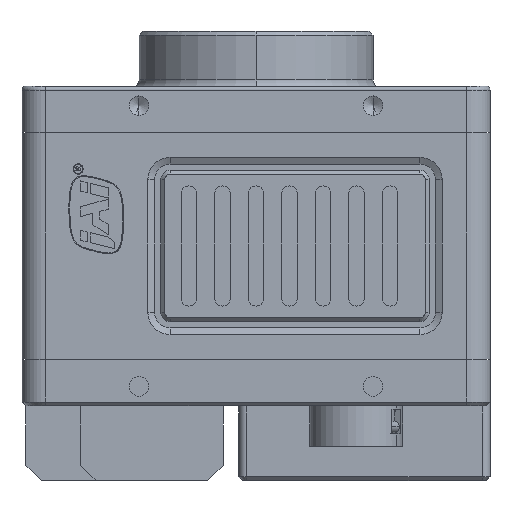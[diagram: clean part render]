
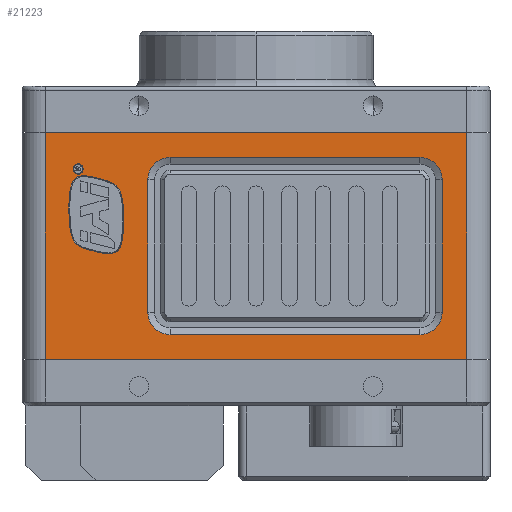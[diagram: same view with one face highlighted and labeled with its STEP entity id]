
A CAD part, left-side view. The second image highlights one B-rep face of the part: STEP entity #21223.
In plain terms, the highlighted planar face has unit normal (-1, 0, 0).
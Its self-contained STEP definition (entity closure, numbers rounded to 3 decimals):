
#1415=DIRECTION('',(0.,-1.,0.));
#1416=VECTOR('',#1415,54.);
#1417=CARTESIAN_POINT('',(-71.158,32.488,-10.22));
#1418=LINE('',#1417,#1416);
#1686=DIRECTION('',(0.,0.,1.));
#1687=VECTOR('',#1686,29.);
#1688=CARTESIAN_POINT('',(-71.158,-21.512,-10.22));
#1689=LINE('',#1688,#1687);
#1690=DIRECTION('',(0.,-1.,0.));
#1691=VECTOR('',#1690,54.);
#1692=CARTESIAN_POINT('',(-71.158,32.488,18.78));
#1693=LINE('',#1692,#1691);
#1694=CARTESIAN_POINT('',(-71.158,-15.512,12.78));
#1695=DIRECTION('',(-1.,0.,0.));
#1696=DIRECTION('',(0.,-1.,0.));
#1697=AXIS2_PLACEMENT_3D('',#1694,#1695,#1696);
#1699=CARTESIAN_POINT('',(-71.158,16.488,12.78));
#1700=DIRECTION('',(-1.,0.,0.));
#1701=DIRECTION('',(0.,0.,1.));
#1702=AXIS2_PLACEMENT_3D('',#1699,#1700,#1701);
#1704=CARTESIAN_POINT('',(-71.158,16.488,-4.22));
#1705=DIRECTION('',(-1.,0.,0.));
#1706=DIRECTION('',(0.,1.,0.));
#1707=AXIS2_PLACEMENT_3D('',#1704,#1705,#1706);
#1709=CARTESIAN_POINT('',(-71.158,-15.512,-4.22));
#1710=DIRECTION('',(-1.,0.,0.));
#1711=DIRECTION('',(0.,0.,-1.));
#1712=AXIS2_PLACEMENT_3D('',#1709,#1710,#1711);
#1714=CARTESIAN_POINT('',(-71.158,28.292,14.152));
#1715=DIRECTION('',(-1.,0.,0.));
#1716=DIRECTION('',(0.,1.,0.));
#1717=AXIS2_PLACEMENT_3D('',#1714,#1715,#1716);
#1719=CARTESIAN_POINT('',(-71.158,28.292,14.152));
#1720=DIRECTION('',(-1.,0.,0.));
#1721=DIRECTION('',(0.,-1.,0.));
#1722=AXIS2_PLACEMENT_3D('',#1719,#1720,#1721);
#1724=CARTESIAN_POINT('',(-71.158,28.731,12.862));
#1725=CARTESIAN_POINT('',(-71.158,28.977,12.581));
#1726=CARTESIAN_POINT('',(-71.158,29.488,11.997));
#1727=CARTESIAN_POINT('',(-71.158,29.488,9.15));
#1729=CARTESIAN_POINT('',(-71.158,29.488,9.15));
#1730=CARTESIAN_POINT('',(-71.158,29.488,6.931));
#1731=CARTESIAN_POINT('',(-71.158,29.237,5.465));
#1732=CARTESIAN_POINT('',(-71.158,28.743,4.792));
#1734=CARTESIAN_POINT('',(-71.158,28.743,4.792));
#1735=CARTESIAN_POINT('',(-71.158,28.298,4.186));
#1736=CARTESIAN_POINT('',(-71.158,27.721,3.967));
#1737=CARTESIAN_POINT('',(-71.158,25.967,3.528));
#1739=CARTESIAN_POINT('',(-71.158,25.967,3.528));
#1740=CARTESIAN_POINT('',(-71.158,24.887,3.258));
#1741=CARTESIAN_POINT('',(-71.158,23.807,3.089));
#1742=CARTESIAN_POINT('',(-71.158,23.222,3.674));
#1744=CARTESIAN_POINT('',(-71.158,23.222,3.674));
#1745=CARTESIAN_POINT('',(-71.158,23.041,3.855));
#1746=CARTESIAN_POINT('',(-71.158,22.491,4.405));
#1747=CARTESIAN_POINT('',(-71.158,22.435,7.421));
#1749=CARTESIAN_POINT('',(-71.158,22.435,7.421));
#1750=CARTESIAN_POINT('',(-71.158,22.405,9.009));
#1751=CARTESIAN_POINT('',(-71.158,22.576,10.96));
#1752=CARTESIAN_POINT('',(-71.158,23.143,11.673));
#1754=CARTESIAN_POINT('',(-71.158,23.143,11.673));
#1755=CARTESIAN_POINT('',(-71.158,23.667,12.333));
#1756=CARTESIAN_POINT('',(-71.158,24.271,12.625));
#1757=CARTESIAN_POINT('',(-71.158,25.95,13.029));
#1759=CARTESIAN_POINT('',(-71.158,25.95,13.029));
#1760=CARTESIAN_POINT('',(-71.158,27.004,13.283));
#1761=CARTESIAN_POINT('',(-71.158,28.175,13.5));
#1762=CARTESIAN_POINT('',(-71.158,28.731,12.862));
#1764=DIRECTION('',(0.,0.,-1.));
#1765=VECTOR('',#1764,29.);
#1766=CARTESIAN_POINT('',(-71.158,32.488,18.78));
#1767=LINE('',#1766,#1765);
#1785=DIRECTION('',(0.,-1.,0.));
#1786=VECTOR('',#1785,32.);
#1787=CARTESIAN_POINT('',(-71.158,16.488,15.646));
#1788=LINE('',#1787,#1786);
#1806=DIRECTION('',(0.,0.,1.));
#1807=VECTOR('',#1806,17.);
#1808=CARTESIAN_POINT('',(-71.158,19.354,
-4.22));
#1809=LINE('',#1808,#1807);
#2435=DIRECTION('',(0.,1.,0.));
#2436=VECTOR('',#2435,32.);
#2437=CARTESIAN_POINT('',(-71.158,-15.512,
-7.086));
#2438=LINE('',#2437,#2436);
#2452=DIRECTION('',(0.,0.,-1.));
#2453=VECTOR('',#2452,17.);
#2454=CARTESIAN_POINT('',(-71.158,-18.378,
12.78));
#2455=LINE('',#2454,#2453);
#16030=CARTESIAN_POINT('',(-71.158,32.488,-10.22));
#16031=VERTEX_POINT('',#16030);
#16032=CARTESIAN_POINT('',(-71.158,-21.512,-10.22));
#16033=VERTEX_POINT('',#16032);
#16070=CARTESIAN_POINT('',(-71.158,-21.512,18.78));
#16071=VERTEX_POINT('',#16070);
#16072=CARTESIAN_POINT('',(-71.158,32.488,18.78));
#16073=VERTEX_POINT('',#16072);
#16134=CARTESIAN_POINT('',(-71.158,-18.378,
12.78));
#16135=CARTESIAN_POINT('',(-71.158,-15.512,
15.646));
#16136=VERTEX_POINT('',#16134);
#16137=VERTEX_POINT('',#16135);
#16138=CARTESIAN_POINT('',(-71.158,16.488,
15.646));
#16139=VERTEX_POINT('',#16138);
#16140=CARTESIAN_POINT('',(-71.158,19.354,
12.78));
#16141=VERTEX_POINT('',#16140);
#16142=CARTESIAN_POINT('',(-71.158,19.354,
-4.22));
#16143=VERTEX_POINT('',#16142);
#16144=CARTESIAN_POINT('',(-71.158,16.488,
-7.086));
#16145=VERTEX_POINT('',#16144);
#16146=CARTESIAN_POINT('',(-71.158,-15.512,
-7.086));
#16147=VERTEX_POINT('',#16146);
#16148=CARTESIAN_POINT('',(-71.158,-18.378,
-4.22));
#16149=VERTEX_POINT('',#16148);
#16150=CARTESIAN_POINT('',(-71.158,28.948,
14.152));
#16151=CARTESIAN_POINT('',(-71.158,27.636,
14.152));
#16152=VERTEX_POINT('',#16150);
#16153=VERTEX_POINT('',#16151);
#16154=VERTEX_POINT('',#1724);
#16155=VERTEX_POINT('',#1727);
#16156=VERTEX_POINT('',#1732);
#16157=VERTEX_POINT('',#1737);
#16158=VERTEX_POINT('',#1742);
#16159=VERTEX_POINT('',#1747);
#16160=VERTEX_POINT('',#1752);
#16161=VERTEX_POINT('',#1757);
#21169=CARTESIAN_POINT('',(-71.158,35.488,18.78));
#21170=DIRECTION('',(1.,0.,0.));
#21171=DIRECTION('',(0.,1.,0.));
#21172=AXIS2_PLACEMENT_3D('',#21169,#21170,#21171);
#21173=PLANE('',#21172);
#21174=ORIENTED_EDGE('',*,*,#20957,.F.);
#21176=ORIENTED_EDGE('',*,*,#21175,.F.);
#21177=ORIENTED_EDGE('',*,*,#21028,.T.);
#21178=ORIENTED_EDGE('',*,*,#21164,.F.);
#21179=EDGE_LOOP('',(#21174,#21176,#21177,#21178));
#21180=FACE_OUTER_BOUND('',#21179,.F.);
#21182=ORIENTED_EDGE('',*,*,#21181,.T.);
#21184=ORIENTED_EDGE('',*,*,#21183,.F.);
#21186=ORIENTED_EDGE('',*,*,#21185,.T.);
#21188=ORIENTED_EDGE('',*,*,#21187,.F.);
#21190=ORIENTED_EDGE('',*,*,#21189,.T.);
#21192=ORIENTED_EDGE('',*,*,#21191,.F.);
#21194=ORIENTED_EDGE('',*,*,#21193,.T.);
#21196=ORIENTED_EDGE('',*,*,#21195,.F.);
#21197=EDGE_LOOP('',(#21182,#21184,#21186,#21188,#21190,#21192,#21194,#21196));
#21198=FACE_BOUND('',#21197,.F.);
#21200=ORIENTED_EDGE('',*,*,#21199,.T.);
#21202=ORIENTED_EDGE('',*,*,#21201,.T.);
#21203=EDGE_LOOP('',(#21200,#21202));
#21204=FACE_BOUND('',#21203,.F.);
#21206=ORIENTED_EDGE('',*,*,#21205,.T.);
#21208=ORIENTED_EDGE('',*,*,#21207,.T.);
#21210=ORIENTED_EDGE('',*,*,#21209,.T.);
#21212=ORIENTED_EDGE('',*,*,#21211,.T.);
#21214=ORIENTED_EDGE('',*,*,#21213,.T.);
#21216=ORIENTED_EDGE('',*,*,#21215,.T.);
#21218=ORIENTED_EDGE('',*,*,#21217,.T.);
#21220=ORIENTED_EDGE('',*,*,#21219,.T.);
#21221=EDGE_LOOP('',(#21206,#21208,#21210,#21212,#21214,#21216,#21218,#21220));
#21222=FACE_BOUND('',#21221,.F.);
#21223=ADVANCED_FACE('',(#21180,#21198,#21204,#21222),#21173,.F.);
#1698=CIRCLE('',#1697,2.866);
#1703=CIRCLE('',#1702,2.866);
#1708=CIRCLE('',#1707,2.866);
#1713=CIRCLE('',#1712,2.866);
#1718=CIRCLE('',#1717,0.656);
#1723=CIRCLE('',#1722,0.656);
#1728=B_SPLINE_CURVE_WITH_KNOTS('',3,(#1724,#1725,#1726,#1727),.UNSPECIFIED.,
.F.,.F.,(4,4),(0.,1.),.UNSPECIFIED.);
#1733=B_SPLINE_CURVE_WITH_KNOTS('',3,(#1729,#1730,#1731,#1732),.UNSPECIFIED.,
.F.,.F.,(4,4),(0.,1.),.UNSPECIFIED.);
#1738=B_SPLINE_CURVE_WITH_KNOTS('',3,(#1734,#1735,#1736,#1737),.UNSPECIFIED.,
.F.,.F.,(4,4),(0.,1.),.UNSPECIFIED.);
#1743=B_SPLINE_CURVE_WITH_KNOTS('',3,(#1739,#1740,#1741,#1742),.UNSPECIFIED.,
.F.,.F.,(4,4),(0.,1.),.UNSPECIFIED.);
#1748=B_SPLINE_CURVE_WITH_KNOTS('',3,(#1744,#1745,#1746,#1747),.UNSPECIFIED.,
.F.,.F.,(4,4),(0.,1.),.UNSPECIFIED.);
#1753=B_SPLINE_CURVE_WITH_KNOTS('',3,(#1749,#1750,#1751,#1752),.UNSPECIFIED.,
.F.,.F.,(4,4),(0.,1.),.UNSPECIFIED.);
#1758=B_SPLINE_CURVE_WITH_KNOTS('',3,(#1754,#1755,#1756,#1757),.UNSPECIFIED.,
.F.,.F.,(4,4),(0.,1.),.UNSPECIFIED.);
#1763=B_SPLINE_CURVE_WITH_KNOTS('',3,(#1759,#1760,#1761,#1762),.UNSPECIFIED.,
.F.,.F.,(4,4),(0.,1.),.UNSPECIFIED.);
#20957=EDGE_CURVE('',#16031,#16033,#1418,.T.);
#21028=EDGE_CURVE('',#16073,#16071,#1693,.T.);
#21164=EDGE_CURVE('',#16033,#16071,#1689,.T.);
#21175=EDGE_CURVE('',#16073,#16031,#1767,.T.);
#21181=EDGE_CURVE('',#16136,#16137,#1698,.T.);
#21183=EDGE_CURVE('',#16139,#16137,#1788,.T.);
#21185=EDGE_CURVE('',#16139,#16141,#1703,.T.);
#21187=EDGE_CURVE('',#16143,#16141,#1809,.T.);
#21189=EDGE_CURVE('',#16143,#16145,#1708,.T.);
#21191=EDGE_CURVE('',#16147,#16145,#2438,.T.);
#21193=EDGE_CURVE('',#16147,#16149,#1713,.T.);
#21195=EDGE_CURVE('',#16136,#16149,#2455,.T.);
#21199=EDGE_CURVE('',#16152,#16153,#1718,.T.);
#21201=EDGE_CURVE('',#16153,#16152,#1723,.T.);
#21205=EDGE_CURVE('',#16154,#16155,#1728,.T.);
#21207=EDGE_CURVE('',#16155,#16156,#1733,.T.);
#21209=EDGE_CURVE('',#16156,#16157,#1738,.T.);
#21211=EDGE_CURVE('',#16157,#16158,#1743,.T.);
#21213=EDGE_CURVE('',#16158,#16159,#1748,.T.);
#21215=EDGE_CURVE('',#16159,#16160,#1753,.T.);
#21217=EDGE_CURVE('',#16160,#16161,#1758,.T.);
#21219=EDGE_CURVE('',#16161,#16154,#1763,.T.);
